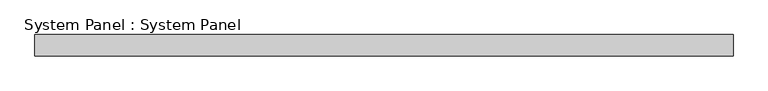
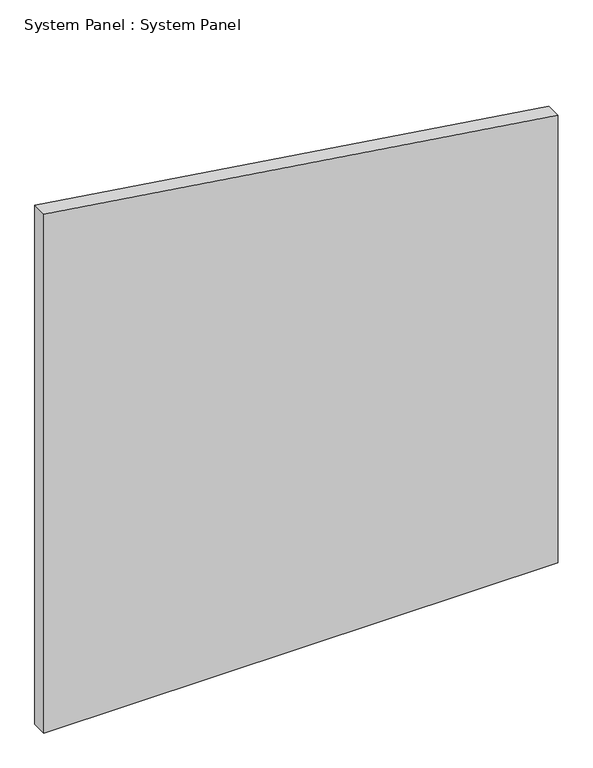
"""IFC4 building model written with IfcOpenShell, lengths in millimetres: plate geometry, System Panel : System Panel."""

from ifc_helpers import new_model, si_unit, frame, origin, place, context, project, spatial, polyline, outline, extrude, source, transform, mapped, element, save


def system_panel_system_panel_4b7a4dd4(model_context):
    return source(origin(), model_context, "Body", "SweptSolid", [
        extrude(outline(polyline([(0.0, 1659.872753), (3055.4872203, 1659.872753), (3541.9142867, -1659.872753), (0.0, -1659.872753), (0.0, 1659.872753)])), frame((0.0, -50.8, 0.0), z_axis=(0.0, 1.0, 0.0), x_axis=(0.0, 0.0, 1.0)), (0.0, 0.0, 1.0), 101.6),
    ])


if __name__ == "__main__":
    model = new_model("IFC4")
    model_context = context("Model", 3, world=origin())
    ifc_project = project(units=[si_unit("LENGTHUNIT", "METRE", prefix="MILLI")], contexts=[model_context])
    site = spatial("IfcSite", under=ifc_project)
    building = spatial("IfcBuilding", under=site)
    placement = place(None, origin())
    system_panel_system_panel_shape = system_panel_system_panel_4b7a4dd4(model_context)
    element("IfcPlate", 1, ObjectType="System Panel : System Panel", at=placement, inside=building, context=model_context, shape_type="MappedRepresentation", body=[
        mapped(system_panel_system_panel_shape, transform((0.0, 0.0, 0.0), x_axis=(1.0, 0.0, 0.0), y_axis=(0.0, 1.0, 0.0), z_axis=(0.0, 0.0, 1.0))),
    ])
    save(model, "model.ifc")
